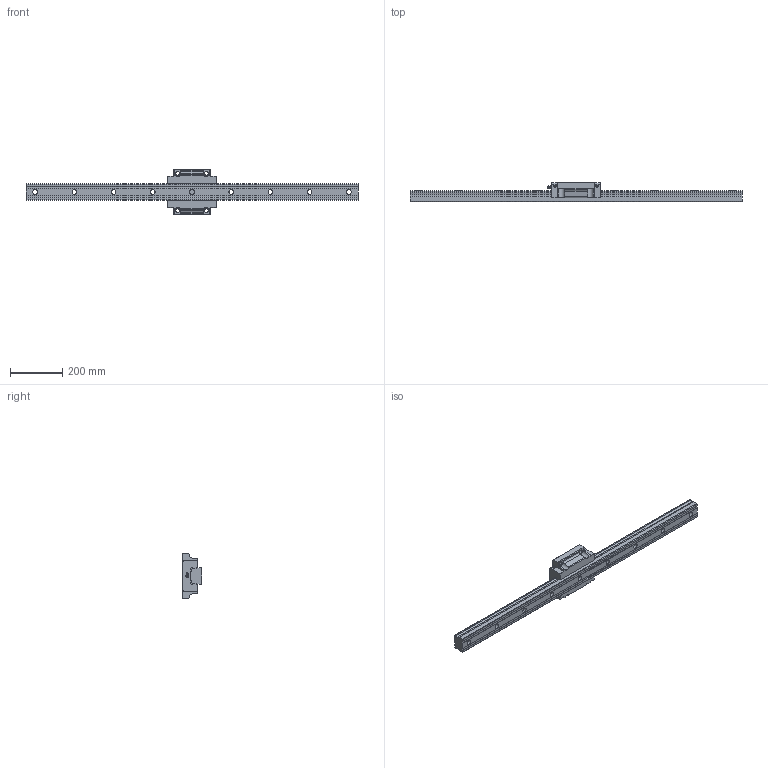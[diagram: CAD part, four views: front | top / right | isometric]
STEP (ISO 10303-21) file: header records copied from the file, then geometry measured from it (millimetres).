
FILE_DESCRIPTION(/* description */ ('STEP AP203'),/* implementation_level */ '2;1');
FILE_NAME(/* name */ 'SVR65C1SS-1270L_G35_0_B-PT18_542_0_0_0_1',/* time_stamp */ '2024-05-17T07:23:09+02:00',/* author */ ('License CC BY-ND 4.0'),/* organization */ ('CADENAS'),/* preprocessor_version */ 'ST-DEVELOPER v19.3',/* originating_system */ 'PARTsolutions',/* authorisation */ ' ');
FILE_SCHEMA (('CONFIG_CONTROL_DESIGN'));
Length unit declared in the file: millimetre
Products named in the file (4): SVR65C1SS-1270L_G35_0_B-PT18_542_0_0_0_1; SVR 65C127035 R Track; SVR 65C1SSB-PT1/81 Slide; B-PT1/8_grease_nipple_joint1_SVR
Assembly tree (3 placements, depth 2):
  SVR65C1SS-1270L_G35_0_B-PT18_542_0_0_0_1
    SVR 65C127035 R Track
    SVR 65C1SSB-PT1/81 Slide
    B-PT1/8_grease_nipple_joint1_SVR
Bounding box: 1270 x 75 x 170 mm (x, y, z)
Volume: 4288223.3 mm3; surface area: 419918.2 mm2
Topology: 3 solids, 3 shells, 230 faces, 610 edges, 401 vertices
Faces by surface type: plane 130, cylinder 75, cone 20, torus 3, sphere 2
Full cylindrical faces by diameter (mm): 8.2 x4, 9.6 x1, 14.5 x4, 18 x9, 26 x9
Entity records: 7029 total; most frequent: CARTESIAN_POINT 1350, DIRECTION 1150, ORIENTED_EDGE 1094, EDGE_CURVE 547, AXIS2_PLACEMENT_3D 412, VERTEX_POINT 392, LINE 326, VECTOR 326
